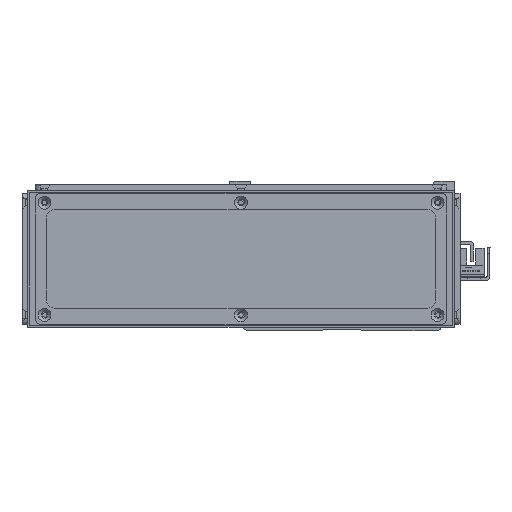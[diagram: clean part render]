
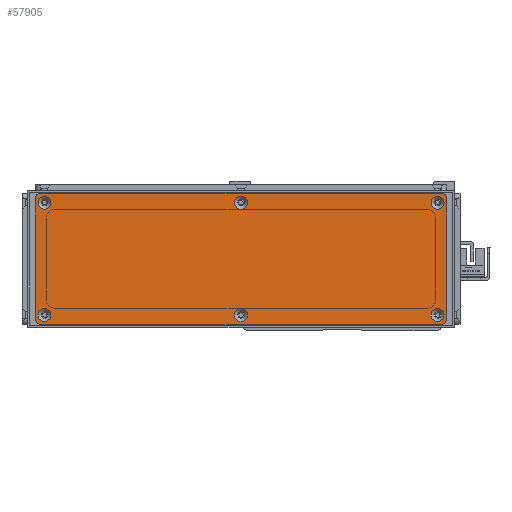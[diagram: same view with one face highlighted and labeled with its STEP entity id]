
A CAD part, front view. The second image highlights one B-rep face of the part: STEP entity #57905.
In plain terms, the highlighted planar face has unit normal (0, -1, 0).
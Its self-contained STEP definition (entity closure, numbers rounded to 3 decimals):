
#2452=FACE_BOUND('',#9916,.T.);
#2453=FACE_BOUND('',#9917,.T.);
#2454=FACE_BOUND('',#9918,.T.);
#2455=FACE_BOUND('',#9919,.T.);
#2456=FACE_BOUND('',#9920,.T.);
#2457=FACE_BOUND('',#9921,.T.);
#3730=CIRCLE('',#62393,3.45);
#3733=CIRCLE('',#62398,3.45);
#3736=CIRCLE('',#62403,3.45);
#3739=CIRCLE('',#62408,3.45);
#3742=CIRCLE('',#62413,3.45);
#3745=CIRCLE('',#62418,3.45);
#3748=CIRCLE('',#62423,3.);
#3750=CIRCLE('',#62426,3.);
#3751=CIRCLE('',#62427,3.);
#3752=CIRCLE('',#62428,3.);
#6591=FACE_OUTER_BOUND('',#9915,.T.);
#9915=EDGE_LOOP('',(#52411,#52412,#52413,#52414,#52415,#52416,#52417,#52418));
#9916=EDGE_LOOP('',(#52419));
#9917=EDGE_LOOP('',(#52420));
#9918=EDGE_LOOP('',(#52421));
#9919=EDGE_LOOP('',(#52422));
#9920=EDGE_LOOP('',(#52423));
#9921=EDGE_LOOP('',(#52424));
#16401=LINE('',#96614,#22918);
#16402=LINE('',#96618,#22919);
#16403=LINE('',#96622,#22920);
#16404=LINE('',#96625,#22921);
#22918=VECTOR('',#77085,10.);
#22919=VECTOR('',#77088,10.);
#22920=VECTOR('',#77091,10.);
#22921=VECTOR('',#77094,10.);
#28369=VERTEX_POINT('',#96544);
#28372=VERTEX_POINT('',#96554);
#28375=VERTEX_POINT('',#96564);
#28378=VERTEX_POINT('',#96574);
#28381=VERTEX_POINT('',#96584);
#28384=VERTEX_POINT('',#96594);
#28387=VERTEX_POINT('',#96604);
#28388=VERTEX_POINT('',#96605);
#28391=VERTEX_POINT('',#96613);
#28392=VERTEX_POINT('',#96615);
#28393=VERTEX_POINT('',#96617);
#28394=VERTEX_POINT('',#96619);
#28395=VERTEX_POINT('',#96621);
#28396=VERTEX_POINT('',#96623);
#36403=EDGE_CURVE('',#28369,#28369,#3730,.T.);
#36408=EDGE_CURVE('',#28372,#28372,#3733,.T.);
#36413=EDGE_CURVE('',#28375,#28375,#3736,.T.);
#36418=EDGE_CURVE('',#28378,#28378,#3739,.T.);
#36423=EDGE_CURVE('',#28381,#28381,#3742,.T.);
#36428=EDGE_CURVE('',#28384,#28384,#3745,.T.);
#36433=EDGE_CURVE('',#28387,#28388,#3748,.T.);
#36437=EDGE_CURVE('',#28387,#28391,#16401,.T.);
#36438=EDGE_CURVE('',#28392,#28391,#3750,.T.);
#36439=EDGE_CURVE('',#28392,#28393,#16402,.T.);
#36440=EDGE_CURVE('',#28394,#28393,#3751,.T.);
#36441=EDGE_CURVE('',#28394,#28395,#16403,.T.);
#36442=EDGE_CURVE('',#28396,#28395,#3752,.T.);
#36443=EDGE_CURVE('',#28396,#28388,#16404,.T.);
#52411=ORIENTED_EDGE('',*,*,#36433,.F.);
#52412=ORIENTED_EDGE('',*,*,#36437,.T.);
#52413=ORIENTED_EDGE('',*,*,#36438,.F.);
#52414=ORIENTED_EDGE('',*,*,#36439,.T.);
#52415=ORIENTED_EDGE('',*,*,#36440,.F.);
#52416=ORIENTED_EDGE('',*,*,#36441,.T.);
#52417=ORIENTED_EDGE('',*,*,#36442,.F.);
#52418=ORIENTED_EDGE('',*,*,#36443,.T.);
#52419=ORIENTED_EDGE('',*,*,#36403,.T.);
#52420=ORIENTED_EDGE('',*,*,#36408,.T.);
#52421=ORIENTED_EDGE('',*,*,#36413,.T.);
#52422=ORIENTED_EDGE('',*,*,#36418,.T.);
#52423=ORIENTED_EDGE('',*,*,#36423,.T.);
#52424=ORIENTED_EDGE('',*,*,#36428,.T.);
#55087=PLANE('',#62425);
#57905=ADVANCED_FACE('',(#6591,#2452,#2453,#2454,#2455,#2456,#2457),#55087,
 .T.);
#62393=AXIS2_PLACEMENT_3D('',#96545,#77005,#77006);
#62398=AXIS2_PLACEMENT_3D('',#96555,#77017,#77018);
#62403=AXIS2_PLACEMENT_3D('',#96565,#77029,#77030);
#62408=AXIS2_PLACEMENT_3D('',#96575,#77041,#77042);
#62413=AXIS2_PLACEMENT_3D('',#96585,#77053,#77054);
#62418=AXIS2_PLACEMENT_3D('',#96595,#77065,#77066);
#62423=AXIS2_PLACEMENT_3D('',#96606,#77077,#77078);
#62425=AXIS2_PLACEMENT_3D('',#96612,#77083,#77084);
#62426=AXIS2_PLACEMENT_3D('',#96616,#77086,#77087);
#62427=AXIS2_PLACEMENT_3D('',#96620,#77089,#77090);
#62428=AXIS2_PLACEMENT_3D('',#96624,#77092,#77093);
#77005=DIRECTION('center_axis',(0.,1.,0.));
#77006=DIRECTION('ref_axis',(1.,0.,0.));
#77017=DIRECTION('center_axis',(0.,1.,0.));
#77018=DIRECTION('ref_axis',(1.,0.,0.));
#77029=DIRECTION('center_axis',(0.,1.,0.));
#77030=DIRECTION('ref_axis',(1.,0.,0.));
#77041=DIRECTION('center_axis',(0.,1.,0.));
#77042=DIRECTION('ref_axis',(1.,0.,0.));
#77053=DIRECTION('center_axis',(0.,1.,0.));
#77054=DIRECTION('ref_axis',(1.,0.,0.));
#77065=DIRECTION('center_axis',(0.,1.,0.));
#77066=DIRECTION('ref_axis',(1.,0.,0.));
#77077=DIRECTION('center_axis',(0.,1.,0.));
#77078=DIRECTION('ref_axis',(-0.707,0.,0.707));
#77083=DIRECTION('center_axis',(0.,-1.,0.));
#77084=DIRECTION('ref_axis',(0.,0.,-1.));
#77085=DIRECTION('',(0.,0.,-1.));
#77086=DIRECTION('center_axis',(0.,1.,0.));
#77087=DIRECTION('ref_axis',(-0.707,0.,-0.707));
#77088=DIRECTION('',(1.,0.,0.));
#77089=DIRECTION('center_axis',(0.,1.,0.));
#77090=DIRECTION('ref_axis',(0.707,0.,-0.707));
#77091=DIRECTION('',(0.,0.,1.));
#77092=DIRECTION('center_axis',(0.,1.,0.));
#77093=DIRECTION('ref_axis',(0.707,0.,0.707));
#77094=DIRECTION('',(-1.,0.,0.));
#96544=CARTESIAN_POINT('',(101.55,-1.5,30.));
#96545=CARTESIAN_POINT('Origin',(105.,-1.5,30.));
#96554=CARTESIAN_POINT('',(-3.45,-1.5,-30.));
#96555=CARTESIAN_POINT('Origin',(0.,-1.5,-30.));
#96564=CARTESIAN_POINT('',(-108.45,-1.5,30.));
#96565=CARTESIAN_POINT('Origin',(-105.,-1.5,30.));
#96574=CARTESIAN_POINT('',(-108.45,-1.5,-30.));
#96575=CARTESIAN_POINT('Origin',(-105.,-1.5,-30.));
#96584=CARTESIAN_POINT('',(-3.45,-1.5,30.));
#96585=CARTESIAN_POINT('Origin',(0.,-1.5,30.));
#96594=CARTESIAN_POINT('',(101.55,-1.5,-30.));
#96595=CARTESIAN_POINT('Origin',(105.,-1.5,-30.));
#96604=CARTESIAN_POINT('',(-110.,-1.5,32.));
#96605=CARTESIAN_POINT('',(-107.,-1.5,35.));
#96606=CARTESIAN_POINT('Origin',(-107.,-1.5,32.));
#96612=CARTESIAN_POINT('Origin',(0.,-1.5,0.));
#96613=CARTESIAN_POINT('',(-110.,-1.5,-32.));
#96614=CARTESIAN_POINT('',(-110.,-1.5,35.));
#96615=CARTESIAN_POINT('',(-107.,-1.5,-35.));
#96616=CARTESIAN_POINT('Origin',(-107.,-1.5,-32.));
#96617=CARTESIAN_POINT('',(107.,-1.5,-35.));
#96618=CARTESIAN_POINT('',(-110.,-1.5,-35.));
#96619=CARTESIAN_POINT('',(110.,-1.5,-32.));
#96620=CARTESIAN_POINT('Origin',(107.,-1.5,-32.));
#96621=CARTESIAN_POINT('',(110.,-1.5,32.));
#96622=CARTESIAN_POINT('',(110.,-1.5,-35.));
#96623=CARTESIAN_POINT('',(107.,-1.5,35.));
#96624=CARTESIAN_POINT('Origin',(107.,-1.5,32.));
#96625=CARTESIAN_POINT('',(110.,-1.5,35.));
